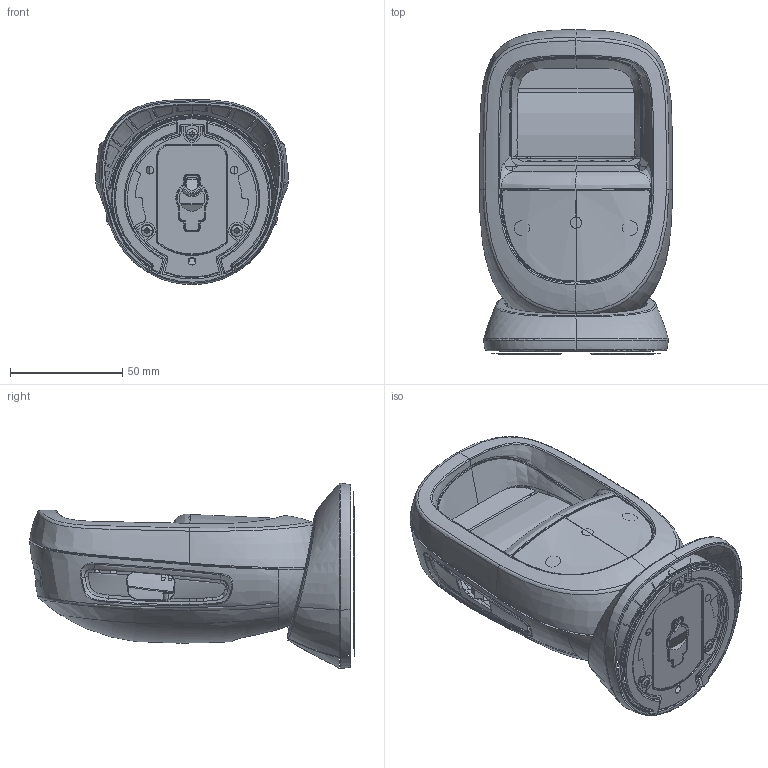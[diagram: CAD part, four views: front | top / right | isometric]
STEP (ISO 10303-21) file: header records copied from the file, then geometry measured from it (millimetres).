
FILE_DESCRIPTION((''),'2;1');
FILE_NAME('DS93XX_ASSY_SW0001','2019-07-03T14:27:01',('DHFW78'),('Zebra Technologies Corp.'),'CREO PARAMETRIC BY PTC INC, 2018420','CREO PARAMETRIC BY PTC INC, 2018420','');
FILE_SCHEMA(('CONFIG_CONTROL_DESIGN'));
Products named in the file (1): DS93XX_ASSY_SW0001
Bounding box: 85.95 x 144.49 x 82.47 mm (x, y, z)
Surface area: 74796.5 mm2 (no closed solid volume)
Topology: 0 solids, 218 shells, 429 faces, 4641 edges, 4400 vertices
Faces by surface type: bspline 246, plane 109, cylinder 32, cone 24, torus 7, sphere 6, extrusion 3, revolution 2
Entity records: 106231 total; most frequent: CARTESIAN_POINT 81622, ORIENTED_EDGE 4988, EDGE_CURVE 4641, VERTEX_POINT 4400, B_SPLINE_CURVE_WITH_KNOTS 3110, DIRECTION 2317, VECTOR 1119, LINE 1116
